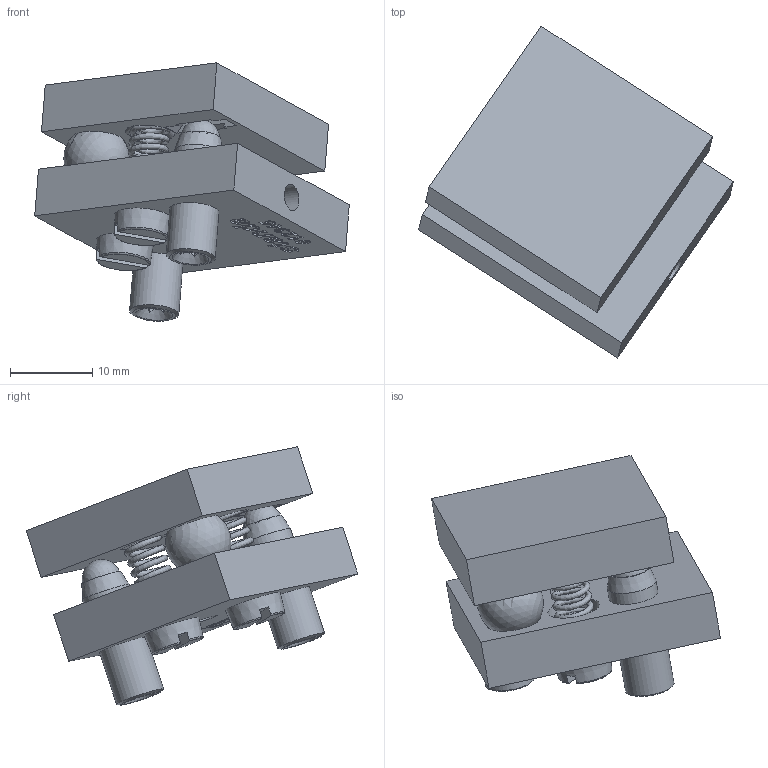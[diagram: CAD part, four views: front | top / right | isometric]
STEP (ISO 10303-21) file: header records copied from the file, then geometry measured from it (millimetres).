
FILE_DESCRIPTION(/* description */ (''),/* implementation_level */ '2;1');
FILE_NAME(/* name */ 'U:\KONSTRUKTORIAI\DOKUMENTACIJA\5\5CM123\step\5CM123.stp',/* time_stamp */ '2016-05-02T09:34:15+03:00',/* author */ ('dsgn33'),/* organization */ (''),/* preprocessor_version */ 'ST-DEVELOPER v15.2',/* originating_system */ 'Autodesk Inventor 2014',/* authorisation */ '');
FILE_SCHEMA (('AUTOMOTIVE_DESIGN { 1 0 10303 214 3 1 1 }'));
Length unit declared in the file: millimetre
Products named in the file (2): Part2; Assembly1
Bounding box: 38.29 x 40.41 x 31.46 mm (x, y, z)
Volume: 31888.7 mm3; surface area: 23969.4 mm2
Topology: 1 solids, 7 shells, 354 faces, 960 edges, 629 vertices
Faces by surface type: plane 163, bspline 118, cylinder 31, cone 30, sphere 8, torus 4
Full cylindrical faces by diameter (mm): 2 x2, 3.1 x2, 3.242 x2, 3.621 x2, 4 x1, 4.5 x3, 4.76 x4, 5 x2, 6 x4, 6.4 x4
Entity records: 15314 total; most frequent: CARTESIAN_POINT 7839, ORIENTED_EDGE 1706, DIRECTION 1103, EDGE_CURVE 848, VERTEX_POINT 582, EDGE_LOOP 452, LINE 429, VECTOR 429
